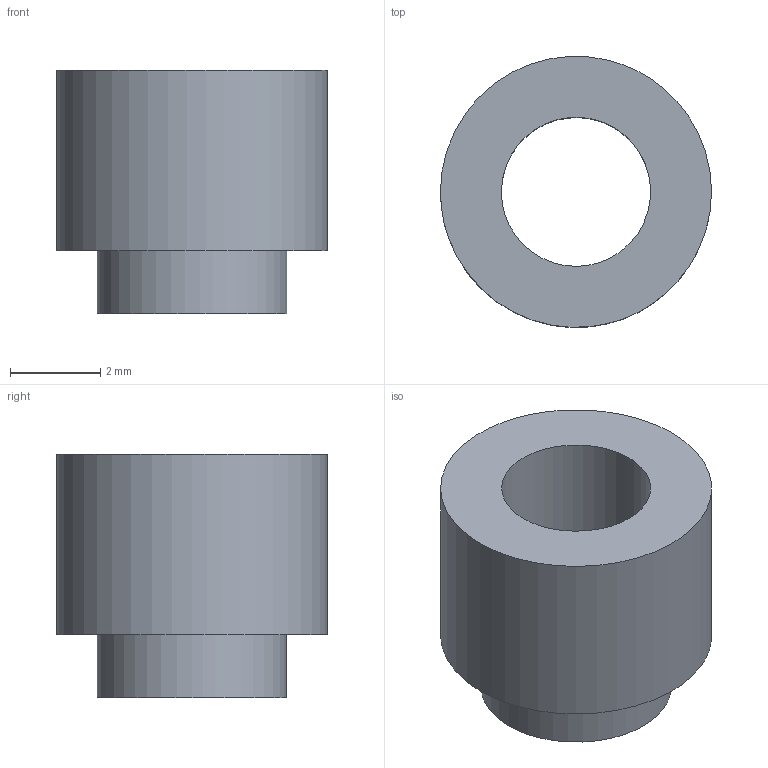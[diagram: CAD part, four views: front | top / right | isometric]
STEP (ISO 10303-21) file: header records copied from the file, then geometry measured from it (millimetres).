
FILE_DESCRIPTION(('FreeCAD Model'),'2;1');
FILE_NAME('Open CASCADE Shape Model','2026-03-20T17:23:12',('Author'),( ''),'Open CASCADE STEP processor 7.8','FreeCAD','Unknown');
FILE_SCHEMA(('AP242_MANAGED_MODEL_BASED_3D_ENGINEERING_MIM_LF. {1 0 10303 442 1 1 4 }'));
Length unit declared in the file: millimetre
Products named in the file (1): 1_transformed
Bounding box: 6 x 5.99 x 5.4 mm (x, y, z)
Volume: 87 mm3; surface area: 189.7 mm2
Topology: 1 solids, 1 shells, 6 faces, 9 edges, 6 vertices
Faces by surface type: bspline 6
Entity records: 201 total; most frequent: CARTESIAN_POINT 109, ORIENTED_EDGE 18, FACE_BOUND 9, EDGE_LOOP 9, EDGE_CURVE 9, ADVANCED_FACE 6, VERTEX_POINT 6, B_SPLINE_SURFACE_WITH_KNOTS 3
